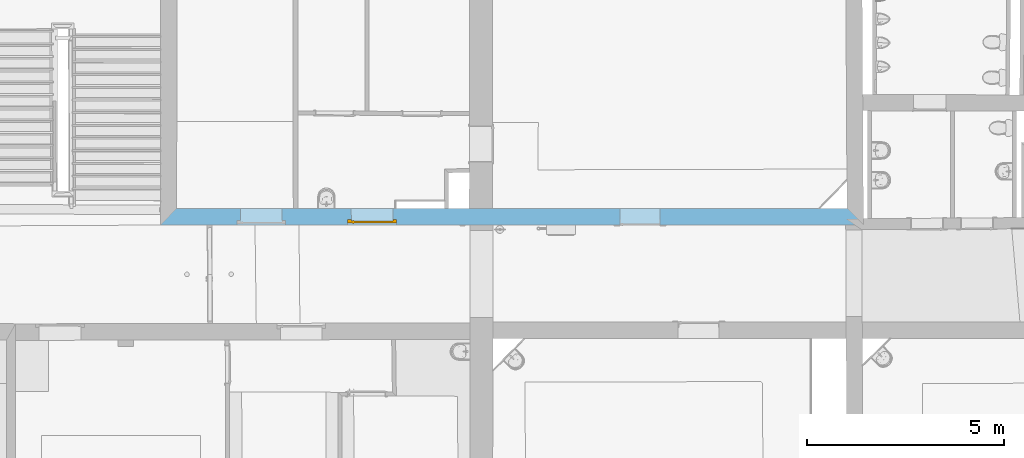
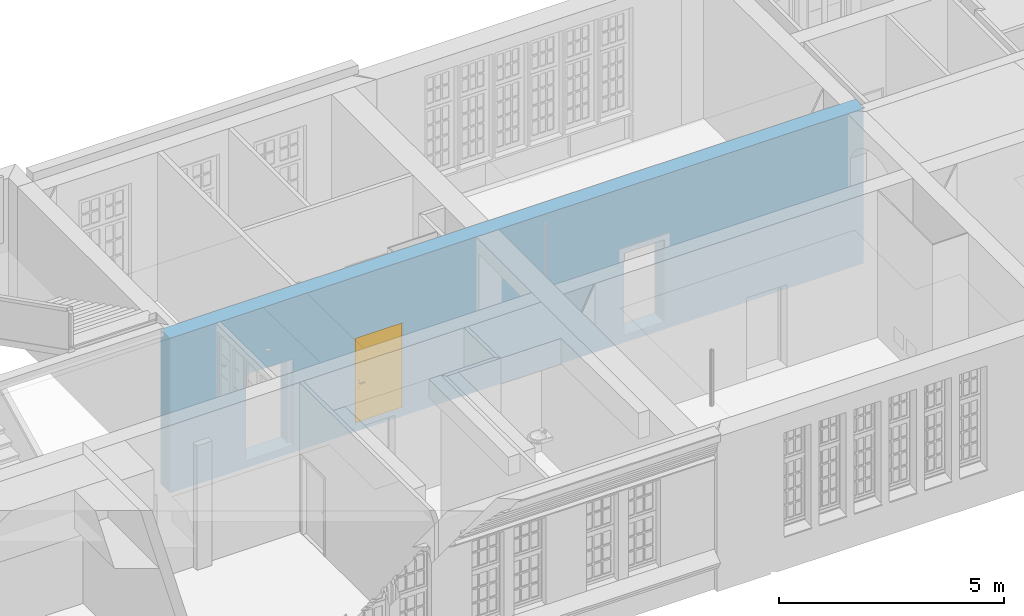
# One storey, part 45 of 90: 1 door, 3 openings, plus 1 element that does not belong to this part.
"""IFC2X3 building model written with IfcOpenShell, lengths in metres."""

import ifcopenshell
import ifcopenshell.guid

model = None  # the IFC model being written
_history = None  # IfcOwnerHistory: only IFC2X3 demands one
_inside = {}  # id of a spatial element -> (the spatial element, [elements in it])
_under = {}  # id of a project, library or spatial element -> (it, [spatial elements below it])
_declared = {}  # id of a project -> (the project, [libraries it declares])
_typed = {}  # id of a type object -> (the type object, [elements of that type])
_made_of = {}  # id of a material, layer set ... -> (it, [elements and type objects made of it])


def new_model(schema):
    """Start an empty IFC model of exactly this schema.

    Asked for "IFC4X3", IfcOpenShell would pick the latest addendum, in which some entities
    have other attributes; the version numbers below select the first issue.
    IFC2X3 requires an IfcOwnerHistory on every rooted entity: one is made here for all.
    """
    global model, _history
    if schema == "IFC4X3":
        model = ifcopenshell.file(schema_version=(4, 3, 0, 0))
    else:
        model = ifcopenshell.file(schema=schema)
    _inside.clear()
    _under.clear()
    _declared.clear()
    _typed.clear()
    _made_of.clear()
    _history = None
    if model.schema == "IFC2X3":
        org = make("IfcOrganization", Name="unknown")
        user = make(
            "IfcPersonAndOrganization",
            ThePerson=make("IfcPerson", FamilyName="unknown"),
            TheOrganization=org,
        )
        app = make(
            "IfcApplication",
            ApplicationDeveloper=org,
            Version="unknown",
            ApplicationFullName="unknown",
            ApplicationIdentifier="unknown",
        )
        _history = make(
            "IfcOwnerHistory",
            OwningUser=user,
            OwningApplication=app,
            ChangeAction="ADDED",
            CreationDate=0,
        )
    return model


def make(cls, **values):
    """One entity of the class cls with the attributes given. An attribute that is None is left unset."""
    return model.create_entity(
        cls, **{name: value for name, value in values.items() if value is not None}
    )


def entity(cls, *values):
    """Any entity or typed value of the class cls, its attributes in the order of the schema. None: left unset."""
    e = model.create_entity(cls)
    for i, value in enumerate(values):
        if value is not None:
            e[i] = value
    return e


def rooted(cls, **values):
    """An entity with a GlobalId (a new one), such as an element, a storey or a relation."""
    return make(cls, GlobalId=ifcopenshell.guid.new(), OwnerHistory=_history, **values)


def si_unit(unit_type, name, prefix=None):
    """IfcSIUnit, for example si_unit("LENGTHUNIT", "METRE", prefix="MILLI")."""
    return make("IfcSIUnit", UnitType=unit_type, Prefix=prefix, Name=name)


def converted_unit(unit_type, name, factor, base, dimensions=None, offset=None):
    """IfcConversionBasedUnit, such as the inch: factor (a typed value) times the base unit."""
    return make(
        "IfcConversionBasedUnit"
        if offset is None
        else "IfcConversionBasedUnitWithOffset",
        ConversionOffset=offset,
        Dimensions=None
        if dimensions is None
        else entity("IfcDimensionalExponents", *dimensions),
        UnitType=unit_type,
        Name=name,
        ConversionFactor=make(
            "IfcMeasureWithUnit", ValueComponent=factor, UnitComponent=base
        ),
    )


def derived_unit(unit_type, elements):
    """IfcDerivedUnit: a product of units, each with its exponent."""
    return make(
        "IfcDerivedUnit",
        Elements=[
            make("IfcDerivedUnitElement", Unit=unit, Exponent=power)
            for unit, power in elements
        ],
        UnitType=unit_type,
    )


def money_unit(currency):
    """IfcMonetaryUnit."""
    return make("IfcMonetaryUnit", Currency=currency)


def assignment(units):
    """IfcUnitAssignment: the units of a project."""
    return None if units is None else make("IfcUnitAssignment", Units=units)


def point(xyz):
    """IfcCartesianPoint."""
    return None if xyz is None else make("IfcCartesianPoint", Coordinates=xyz)


def direction(xyz):
    """IfcDirection."""
    return None if xyz is None else make("IfcDirection", DirectionRatios=xyz)


def frame(location, z_axis=None, x_axis=None):
    """IfcAxis2Placement3D, a coordinate frame: its origin and axes. An axis left out is left unset."""
    return make(
        "IfcAxis2Placement3D",
        Location=point(location),
        Axis=direction(z_axis),
        RefDirection=direction(x_axis),
    )


def frame_2d(location, x_axis=None):
    """IfcAxis2Placement2D, a coordinate frame in the plane: its origin and x axis."""
    return make(
        "IfcAxis2Placement2D", Location=point(location), RefDirection=direction(x_axis)
    )


def origin_with_axes():
    """The frame at (0, 0, 0) with the z axis (0, 0, 1) and the x axis (1, 0, 0) written out."""
    return frame((0.0, 0.0, 0.0), z_axis=(0.0, 0.0, 1.0), x_axis=(1.0, 0.0, 0.0))


def origin_2d_with_axis():
    """The frame at (0, 0) in the plane with the x axis (1, 0) written out."""
    return frame_2d((0.0, 0.0), x_axis=(1.0, 0.0))


def place(relative_to, where):
    """IfcLocalPlacement: puts the frame where relative to a parent placement (None: the world)."""
    return make(
        "IfcLocalPlacement", PlacementRelTo=relative_to, RelativePlacement=where
    )


def context(
    kind, dimensions, precision=None, world=None, true_north=None, identifier=None
):
    """IfcGeometricRepresentationContext, for example the 3D "Model" context."""
    return make(
        "IfcGeometricRepresentationContext",
        ContextIdentifier=identifier,
        ContextType=kind,
        CoordinateSpaceDimension=dimensions,
        Precision=precision,
        WorldCoordinateSystem=world,
        TrueNorth=true_north,
    )


def subcontext(parent, identifier, kind, view, scale=None):
    """IfcGeometricRepresentationSubContext, for example "Body" below "Model"."""
    return make(
        "IfcGeometricRepresentationSubContext",
        ContextIdentifier=identifier,
        ContextType=kind,
        ParentContext=parent,
        TargetScale=scale,
        TargetView=view,
    )


def project(units=None, contexts=None):
    """IfcProject with its units and contexts."""
    return rooted(
        "IfcProject",
        Name="project",
        RepresentationContexts=contexts,
        UnitsInContext=assignment(units),
    )


def spatial(cls, under=None, at=None, **own):
    """A site, building, storey or space (cls), placed at a placement, below another one or the project."""
    s = rooted(cls, ObjectPlacement=at, **own)
    if under is not None:
        _under.setdefault(under.id(), (under, []))[1].append(s)
    return s


def polyline(points):
    """IfcPolyline through the points."""
    return make("IfcPolyline", Points=[point(p) for p in points])


def profile(cls, at=None, kind="AREA", **sizes):
    """A parametric profile (cls). Its sizes go by their IFC names, for example OverallWidth=200.0."""
    return make(cls, ProfileType=kind, Position=at, **sizes)


def rectangle(**sizes):
    """IfcRectangleProfileDef."""
    return profile("IfcRectangleProfileDef", **sizes)


def outline(outer, holes=None, kind="AREA"):
    """IfcArbitraryClosedProfileDef: a profile drawn as a closed curve; with holes, ...WithVoids."""
    if holes is None:
        return make("IfcArbitraryClosedProfileDef", ProfileType=kind, OuterCurve=outer)
    return make(
        "IfcArbitraryProfileDefWithVoids",
        ProfileType=kind,
        OuterCurve=outer,
        InnerCurves=holes,
    )


def extrude(swept, where, along, depth):
    """IfcExtrudedAreaSolid: the profile swept, set in the frame where, extruded along a direction by depth."""
    return make(
        "IfcExtrudedAreaSolid",
        SweptArea=swept,
        Position=where,
        ExtrudedDirection=direction(along),
        Depth=depth,
    )


def boolean(op, a, b):
    """IfcBooleanResult of two solids."""
    return make("IfcBooleanResult", Operator=op, FirstOperand=a, SecondOperand=b)


def faces_of(points, faces, orient=None, outer=None):
    """IfcFace entities. A face is a list of loops; a loop is a list of indices into points, from 0.

    orient and outer hold one flag for each loop. By default every Orientation is true, the
    first loop of a face is its IfcFaceOuterBound and the others are IfcFaceBound.
    """
    made = []
    for i, loops in enumerate(faces):
        bounds = []
        for j, loop in enumerate(loops):
            is_outer = j == 0 if outer is None else outer[i][j]
            bounds.append(
                make(
                    "IfcFaceOuterBound" if is_outer else "IfcFaceBound",
                    Bound=make("IfcPolyLoop", Polygon=[points[k] for k in loop]),
                    Orientation=True if orient is None else orient[i][j],
                )
            )
        made.append(make("IfcFace", Bounds=bounds))
    return made


def faceted_brep(points, faces, orient=None, outer=None, voids=None):
    """IfcFacetedBrep: a solid bounded by flat faces; with voids (closed shells), ...WithVoids."""
    shared = [point(p) for p in points]
    hull = make("IfcClosedShell", CfsFaces=faces_of(shared, faces, orient, outer))
    if voids is None:
        return make("IfcFacetedBrep", Outer=hull)
    return make(
        "IfcFacetedBrepWithVoids",
        Outer=hull,
        Voids=[
            make(cls, CfsFaces=faces_of(shared, fs, o, b)) for cls, fs, o, b in voids
        ],
    )


def shape(context_of_items, identifier, shape_type, items):
    """IfcShapeRepresentation: the items that make up one representation, for example the "Body"."""
    return make(
        "IfcShapeRepresentation",
        ContextOfItems=context_of_items,
        RepresentationIdentifier=identifier,
        RepresentationType=shape_type,
        Items=items,
    )


def material(Name=None, Category=None):
    """IfcMaterial."""
    return make("IfcMaterial", Name=Name, Category=Category)


def made_of(thing, what):
    """Note that an element or type object is made of a material, layer set ...; save() writes the relation."""
    if what is not None:
        _made_of.setdefault(what.id(), (what, []))[1].append(thing)
    return thing


def type_object(cls, material=None, **own):
    """A type object (cls), such as IfcWallType, which elements share."""
    return made_of(rooted(cls, **own), material)


def element(
    cls,
    number,
    at=None,
    inside=None,
    cuts=None,
    type_object=None,
    material=None,
    context=None,
    identifier="Body",
    shape_type=None,
    held_by="IfcProductDefinitionShape",
    body=None,
    shapes=None,
    **own,
):
    """One element of the class cls, such as IfcWall. Its Tag is "e" and its number.

    at: its placement. inside: the storey or other place that contains it. cuts: it is an
    opening in that element (IfcRelVoidsElement). A single representation is given by context,
    identifier, shape_type and body (its items); several are given by shapes. held_by: the class
    of the entity that holds the representations. save() writes the other relations.
    """
    e = rooted(cls, Tag="e%d" % number, ObjectPlacement=at, **own)
    if body is not None:
        shapes = [shape(context, identifier, shape_type, body)]
    if shapes is not None:
        e.Representation = make(held_by, Representations=shapes)
    if inside is not None:
        _inside.setdefault(inside.id(), (inside, []))[1].append(e)
    if cuts is not None:
        rooted(
            "IfcRelVoidsElement", RelatingBuildingElement=cuts, RelatedOpeningElement=e
        )
    if type_object is not None:
        _typed.setdefault(type_object.id(), (type_object, []))[1].append(e)
    return made_of(e, material)


def fill(opening, filler):
    """IfcRelFillsElement: the door or window that sits in an opening."""
    return rooted(
        "IfcRelFillsElement",
        RelatingOpeningElement=opening,
        RelatedBuildingElement=filler,
    )


def aggregate(whole, parts):
    """IfcRelAggregates: a whole, such as a stair, and the parts it consists of."""
    return rooted("IfcRelAggregates", RelatingObject=whole, RelatedObjects=parts)


def save(model, path):
    """Write the relations noted so far, then the file.

    IfcRelAggregates (storeys below a building ...), IfcRelContainedInSpatialStructure (elements
    in a storey), IfcRelDefinesByType, IfcRelAssociatesMaterial and IfcRelDeclares: one each for
    every whole, place, type object, material and project.
    """
    for whole, parts in _under.values():
        aggregate(whole, parts)
    for where, things in _inside.values():
        rooted(
            "IfcRelContainedInSpatialStructure",
            RelatedElements=things,
            RelatingStructure=where,
        )
    for kind, things in _typed.values():
        rooted("IfcRelDefinesByType", RelatedObjects=things, RelatingType=kind)
    for what, things in _made_of.values():
        rooted("IfcRelAssociatesMaterial", RelatedObjects=things, RelatingMaterial=what)
    for by, libraries in _declared.values():
        rooted("IfcRelDeclares", RelatingContext=by, RelatedDefinitions=libraries)
    model.write(path)


model = new_model("IFC2X3")

# Units and contexts
model_context = context("Model", 3, precision=1e-05, world=origin_with_axes(), true_north=direction((0.0, 1.0)))
body_context = subcontext(model_context, "Body", "Model", "MODEL_VIEW")
ifc_project = project(units=[si_unit("LENGTHUNIT", "METRE"), si_unit("AREAUNIT", "SQUARE_METRE"), si_unit("VOLUMEUNIT", "CUBIC_METRE"), converted_unit("PLANEANGLEUNIT", "DEGREE", entity("IfcPlaneAngleMeasure", 0.0174532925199), si_unit("PLANEANGLEUNIT", "RADIAN"), dimensions=[0, 0, 0, 0, 0, 0, 0]), money_unit("EUR"), converted_unit("TIMEUNIT", "Year", entity("IfcTimeMeasure", 31556926.0), si_unit("TIMEUNIT", "SECOND"), dimensions=[0, 0, 1, 0, 0, 0, 0]), si_unit("MASSUNIT", "GRAM", prefix="KILO"), si_unit("THERMODYNAMICTEMPERATUREUNIT", "DEGREE_CELSIUS"), si_unit("LUMINOUSINTENSITYUNIT", "LUMEN"), si_unit("ENERGYUNIT", "JOULE", prefix="MEGA"), derived_unit("THERMALCONDUCTANCEUNIT", [(si_unit("POWERUNIT", "WATT"), 1), (si_unit("LENGTHUNIT", "METRE"), -1), (si_unit("THERMODYNAMICTEMPERATUREUNIT", "KELVIN"), -1)]), derived_unit("SPECIFICHEATCAPACITYUNIT", [(si_unit("ENERGYUNIT", "JOULE"), 1), (si_unit("MASSUNIT", "GRAM", prefix="KILO"), -1), (si_unit("THERMODYNAMICTEMPERATUREUNIT", "KELVIN"), -1)]), derived_unit("MASSDENSITYUNIT", [(si_unit("MASSUNIT", "GRAM", prefix="KILO"), 1), (si_unit("VOLUMEUNIT", "CUBIC_METRE"), -1)])], contexts=[model_context])

# Site, building, storey
site_placement = place(None, origin_with_axes())
site = spatial("IfcSite", under=ifc_project, at=site_placement, Name="Gelände", CompositionType="ELEMENT")
building_placement = place(site_placement, origin_with_axes())
building = spatial("IfcBuilding", under=site, at=building_placement, Name="Gebäude", CompositionType="ELEMENT")
storey_placement = place(building_placement, frame((0.0, 0.0, 3.7), z_axis=(0.0, 0.0, 1.0), x_axis=(1.0, 0.0, 0.0)))
storey = spatial("IfcBuildingStorey", under=building, at=storey_placement, Name="1.OBERGESCHOSS", CompositionType="ELEMENT", Elevation=3.7)

# Wall, openings, door
ifc_material = material(Name="05_ALLGEMEIN - TRAGENDE BAUTEILE")
wall_type = type_object("IfcWallType", Name="05_ALLGEMEIN - TRAGENDE BAUTEILE 415", PredefinedType="ELEMENTEDWALL")
wall_placement = place(storey_placement, frame((-4.46533827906, 19.2762494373, -0.1), z_axis=(0.0, 0.0, 1.0), x_axis=(0.999999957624, 0.000291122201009, 0.0)))
wall = element("IfcWall", 1, at=wall_placement, inside=storey, type_object=wall_type, material=ifc_material, Name="Wand-038", ObjectType="ELEMENTEDWALL", context=body_context, shape_type="CSG", body=[
    boolean("DIFFERENCE", boolean("DIFFERENCE", extrude(outline(polyline([(-0.410000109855, 0.0), (17.4431832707, 0.0), (17.4431832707, 0.414615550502), (-0.410000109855, 0.414615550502), (-0.410000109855, 0.0)])), origin_with_axes(), (0.0, 0.0, 1.0), 4.2), faceted_brep([(-0.409696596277, 0.414615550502, 0.0), (-0.409766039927, 0.319751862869, 0.0), (-0.40959077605, 0.285260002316, 0.0), (-0.409791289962, 0.285258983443, 0.0), (-0.410000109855, 0.0, 0.0), (-0.410000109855, 0.414615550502, 0.0), (-0.409696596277, 0.414615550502, 4.2), (-0.410000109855, 0.0, 4.2), (-0.409791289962, 0.285258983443, 0.0945767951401), (-0.409766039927, 0.319751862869, 0.0945767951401), (-0.40959077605, 0.285260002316, 0.0945767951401), (-0.410000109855, 0.414615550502, 4.2)], [[[0, 1, 2, 3, 4, 5]], [[0, 6, 7, 4, 3, 8, 9, 1]], [[2, 1, 9, 10]], [[3, 2, 10, 8]], [[4, 7, 11, 5]], [[6, 0, 5, 11]], [[7, 6, 11]], [[9, 8, 10]]])), faceted_brep([(17.4022997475, 0.155036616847, 4.2), (17.4028442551, 0.0, 4.2), (17.4431832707, 0.0, 4.2), (17.4431832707, 0.414615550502, 4.2), (17.4409878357, 0.414615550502, 4.2), (17.4423609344, 0.155301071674, 4.2), (17.4028442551, 0.0, 0.0), (17.4022997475, 0.155036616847, 0.0), (17.4431832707, 0.0, 0.0), (17.4431832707, 0.414615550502, 0.0), (17.4409878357, 0.414615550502, 0.0), (17.4423609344, 0.155301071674, 0.0)], [[[0, 1, 2, 3, 4, 5]], [[6, 1, 0, 7]], [[1, 6, 8, 2]], [[2, 8, 9, 3]], [[10, 4, 3, 9]], [[5, 4, 10, 11]], [[0, 5, 11, 7]], [[11, 10, 9, 8, 6, 7]]])),
])
opening_1_placement = place(wall_placement, frame((11.7658907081, 0.0, 0.201376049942), z_axis=(0.0, 0.0, 1.0), x_axis=(1.0, 0.0, 0.0)))
element("IfcOpeningElement", 2, at=opening_1_placement, cuts=wall, Name="Tür-022", context=body_context, shape_type="SweptSolid", body=[
    extrude(rectangle(XDim=1.02378616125, YDim=2.250558, at=origin_2d_with_axis()), frame((0.0, 0.414615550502, 1.125279), z_axis=(0.0, 1.0, 0.0), x_axis=(1.0, 0.0, 0.0)), (0.0, 0.0, -1.0), 1.24384665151),
])
opening_2_placement = place(wall_placement, frame((4.96277781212, 0.0, 0.201), z_axis=(0.0, 0.0, 1.0), x_axis=(1.0, 0.0, 0.0)))
opening_2 = element("IfcOpeningElement", 3, at=opening_2_placement, cuts=wall, Name="Tür-022", context=body_context, shape_type="SweptSolid", body=[
    extrude(rectangle(XDim=1.05907517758, YDim=2.24387033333, at=origin_2d_with_axis()), frame((0.0, 0.14, 1.12193516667), z_axis=(0.0, 1.0, 0.0), x_axis=(1.0, 0.0, 0.0)), (0.0, 0.0, 1.0), 0.689231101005),
    extrude(rectangle(XDim=1.23907517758, YDim=2.33387033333, at=origin_2d_with_axis()), frame((0.0, 0.05, 1.16693516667), z_axis=(0.0, -1.0, 0.0), x_axis=(1.0, 0.0, 0.0)), (0.0, 0.0, -1.0), 0.09),
    extrude(rectangle(XDim=1.23907517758, YDim=2.33387033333, at=origin_2d_with_axis()), frame((0.0, 0.05, 1.16693516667), z_axis=(0.0, -1.0, 0.0), x_axis=(1.0, 0.0, 0.0)), (0.0, 0.0, 1.0), 0.464615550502),
])
opening_3_placement = place(wall_placement, frame((2.14649671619, 0.0, 0.201), z_axis=(0.0, 0.0, 1.0), x_axis=(1.0, 0.0, 0.0)))
element("IfcOpeningElement", 4, at=opening_3_placement, cuts=wall, Name="Tür-022", context=body_context, shape_type="SweptSolid", body=[
    extrude(rectangle(XDim=1.05907517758, YDim=2.24387033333, at=origin_2d_with_axis()), frame((0.0, 0.12, 1.12193516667), z_axis=(0.0, 1.0, 0.0), x_axis=(1.0, 0.0, 0.0)), (0.0, 0.0, 1.0), 0.709231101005),
    extrude(rectangle(XDim=1.23907517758, YDim=2.33387033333, at=origin_2d_with_axis()), frame((0.0, 0.03, 1.16693516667), z_axis=(0.0, -1.0, 0.0), x_axis=(1.0, 0.0, 0.0)), (0.0, 0.0, -1.0), 0.09),
    extrude(rectangle(XDim=1.23907517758, YDim=2.33387033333, at=origin_2d_with_axis()), frame((0.0, 0.03, 1.16693516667), z_axis=(0.0, -1.0, 0.0), x_axis=(1.0, 0.0, 0.0)), (0.0, 0.0, 1.0), 0.444615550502),
])
door_style = type_object("IfcDoorStyle", Name="Blockrahmentür 1-Fl 25", ConstructionType="NOTDEFINED", OperationType="SINGLE_SWING_LEFT", ParameterTakesPrecedence=False, Sizeable=False)
door_placement = place(opening_2_placement, frame((0.529537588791, 0.0, 0.0), z_axis=(0.0, 0.0, 1.0), x_axis=(-1.0, 0.0, 0.0)))
door = element("IfcDoor", 5, at=door_placement, inside=storey, type_object=door_style, Name="Tür-022", ObjectType="NOTDEFINED", OverallHeight=2.33387, OverallWidth=1.23908, context=body_context, shape_type="Brep", body=[
    faceted_brep([(-0.09, -0.14, 0.0), (-0.09, -0.14, 2.33387033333), (-0.09, -0.1, 2.33387033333), (-0.09, -0.1, 0.0), (0.0, -0.14, 0.0), (0.0, -0.14, 2.24387033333), (0.417437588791, -0.14, 2.24387033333), (0.529437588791, -0.14, 2.24387033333), (1.05907517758, -0.14, 2.24387033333), (1.05907517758, -0.14, 0.0), (1.14907517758, -0.14, 0.0), (1.14907517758, -0.14, 2.33387033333), (1.14907517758, -0.1, 2.33387033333), (1.14907517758, -0.1, 0.0), (1.05907517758, -0.1, 0.0), (1.05907517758, -0.1, 2.24387033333), (0.529437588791, -0.1, 2.24387033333), (0.417437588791, -0.1, 2.24387033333), (0.0, -0.1, 2.24387033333), (0.0, -0.1, 0.0)], [[[0, 1, 2, 3]], [[0, 4, 5, 6, 7, 8, 9, 10, 11, 1]], [[1, 11, 12, 2]], [[3, 2, 12, 13, 14, 15, 16, 17, 18, 19]], [[4, 0, 3, 19]], [[5, 4, 19, 18]], [[6, 5, 18, 17]], [[7, 6, 17, 16]], [[8, 7, 16, 15]], [[9, 8, 15, 14]], [[10, 9, 14, 13]], [[11, 10, 13, 12]]]),
    faceted_brep([(-0.09, -0.1, 0.0), (-0.09, -0.1, 2.33387033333), (-0.09, -0.05, 2.33387033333), (-0.09, -0.05, 0.0), (-0.012, -0.1, 0.0), (-0.012, -0.1, 2.25587033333), (0.429437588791, -0.1, 2.25587033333), (0.517437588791, -0.1, 2.25587033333), (1.07107517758, -0.1, 2.25587033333), (1.07107517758, -0.1, 0.0), (1.14907517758, -0.1, 0.0), (1.14907517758, -0.1, 2.33387033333), (1.14907517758, -0.05, 2.33387033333), (1.14907517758, -0.05, 0.0), (1.07107517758, -0.05, 0.0), (1.07107517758, -0.05, 2.25587033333), (0.517437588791, -0.05, 2.25587033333), (0.429437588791, -0.05, 2.25587033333), (-0.012, -0.05, 2.25587033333), (-0.012, -0.05, 0.0)], [[[0, 1, 2, 3]], [[0, 4, 5, 6, 7, 8, 9, 10, 11, 1]], [[1, 11, 12, 2]], [[3, 2, 12, 13, 14, 15, 16, 17, 18, 19]], [[4, 0, 3, 19]], [[5, 4, 19, 18]], [[6, 5, 18, 17]], [[7, 6, 17, 16]], [[8, 7, 16, 15]], [[9, 8, 15, 14]], [[10, 9, 14, 13]], [[11, 10, 13, 12]]]),
    faceted_brep([(-0.012, -0.052, 0.0), (-0.012, -0.052, 2.25587033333), (1.07107517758, -0.052, 2.25587033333), (1.07107517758, -0.052, 0.0), (-0.012, -0.1, 0.0), (-0.012, -0.1, 2.25587033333), (1.07107517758, -0.1, 2.25587033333), (1.07107517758, -0.1, 0.0)], [[[0, 1, 2, 3]], [[0, 4, 5, 1]], [[1, 5, 6, 2]], [[2, 6, 7, 3]], [[3, 7, 4, 0]], [[7, 6, 5, 4]]]),
    faceted_brep([(1.0157774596, -0.14, 1.05647213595), (1.0157774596, -0.12, 1.05647213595), (1.01107517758, -0.12, 1.058), (1.01107517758, -0.14, 1.058), (1.01868362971, -0.14, 1.05247213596), (1.01868362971, -0.12, 1.05247213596), (1.0169530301, -0.118, 1.05809016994), (1.01107517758, -0.118, 1.06), (1.00637289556, -0.12, 1.05647213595), (1.00637289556, -0.14, 1.05647213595), (1.00346672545, -0.14, 1.05247213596), (1.00346672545, -0.14, 1.04752786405), (1.00637289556, -0.14, 1.04352786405), (1.01107517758, -0.14, 1.042), (1.0157774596, -0.14, 1.04352786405), (1.01868362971, -0.14, 1.04752786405), (1.01868362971, -0.12, 1.04752786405), (1.02058574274, -0.118, 1.05309016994), (1.0169530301, -0.11, 1.05809016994), (1.01107517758, -0.11, 1.06), (1.00519732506, -0.118, 1.05809016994), (1.00346672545, -0.12, 1.05247213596), (1.00346672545, -0.12, 1.04752786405), (1.00637289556, -0.12, 1.04352786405), (1.01107517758, -0.12, 1.042), (1.0157774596, -0.12, 1.04352786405), (1.02058574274, -0.118, 1.04690983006), (1.02058574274, -0.11, 1.05309016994), (1.02058574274, -0.11, 1.04690983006), (1.0169530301, -0.11, 1.04190983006), (1.01107517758, -0.11, 1.04), (1.00519732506, -0.11, 1.04190983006), (1.00156461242, -0.11, 1.04690983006), (1.00156461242, -0.11, 1.05309016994), (1.00519732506, -0.11, 1.05809016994), (1.00156461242, -0.118, 1.05309016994), (1.00156461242, -0.118, 1.04690983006), (1.00519732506, -0.118, 1.04190983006), (1.01107517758, -0.118, 1.04), (1.0169530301, -0.118, 1.04190983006)], [[[0, 1, 2, 3]], [[4, 5, 1, 0]], [[1, 6, 7, 2]], [[3, 2, 8, 9]], [[3, 9, 10, 11, 12, 13, 14, 15, 4, 0]], [[15, 16, 5, 4]], [[5, 17, 6, 1]], [[6, 18, 19, 7]], [[2, 7, 20, 8]], [[9, 8, 21, 10]], [[10, 21, 22, 11]], [[11, 22, 23, 12]], [[12, 23, 24, 13]], [[13, 24, 25, 14]], [[14, 25, 16, 15]], [[16, 26, 17, 5]], [[17, 27, 18, 6]], [[19, 18, 27, 28, 29, 30, 31, 32, 33, 34]], [[7, 19, 34, 20]], [[8, 20, 35, 21]], [[21, 35, 36, 22]], [[22, 36, 37, 23]], [[23, 37, 38, 24]], [[24, 38, 39, 25]], [[25, 39, 26, 16]], [[26, 28, 27, 17]], [[39, 29, 28, 26]], [[38, 30, 29, 39]], [[37, 31, 30, 38]], [[36, 32, 31, 37]], [[35, 33, 32, 36]], [[20, 34, 33, 35]]]),
    faceted_brep([(0.998886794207, -0.11, 1.11759695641), (0.994275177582, -0.11, 1.11), (0.988575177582, -0.11, 1.11), (0.988575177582, -0.11, 0.89), (0.994275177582, -0.11, 0.89), (0.998886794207, -0.11, 0.882403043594), (1.00663162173, -0.11, 0.878044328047), (1.01551873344, -0.11, 0.878044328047), (1.02326356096, -0.11, 0.882403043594), (1.02787517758, -0.11, 0.89), (1.03357517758, -0.11, 0.89), (1.03357517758, -0.11, 1.11), (1.02787517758, -0.11, 1.11), (1.02326356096, -0.11, 1.11759695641), (1.01551873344, -0.11, 1.12195567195), (1.00663162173, -0.11, 1.12195567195), (1.01107517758, -0.11, 0.967425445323), (1.0164503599, -0.11, 0.965143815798), (1.01854300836, -0.11, 0.959692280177), (1.01607517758, -0.11, 0.9544), (1.01607517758, -0.11, 0.9375), (1.01461071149, -0.11, 0.933964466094), (1.01107517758, -0.11, 0.9325), (1.00753964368, -0.11, 0.933964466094), (1.00607517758, -0.11, 0.9375), (1.00607517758, -0.11, 0.9544), (1.00360734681, -0.11, 0.959692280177), (1.00569999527, -0.11, 0.965143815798), (0.998886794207, -0.1, 1.11759695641), (0.994275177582, -0.1, 1.11), (0.988575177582, -0.1, 1.11), (0.988575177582, -0.1, 0.89), (0.994275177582, -0.1, 0.89), (0.998886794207, -0.1, 0.882403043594), (1.00663162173, -0.1, 0.878044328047), (1.01551873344, -0.1, 0.878044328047), (1.02326356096, -0.1, 0.882403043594), (1.02787517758, -0.1, 0.89), (1.03357517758, -0.1, 0.89), (1.03357517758, -0.1, 1.11), (1.02787517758, -0.1, 1.11), (1.02326356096, -0.1, 1.11759695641), (1.01551873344, -0.1, 1.12195567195), (1.00663162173, -0.1, 1.12195567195), (1.01107517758, -0.1, 0.967425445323), (1.0164503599, -0.1, 0.965143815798), (1.01854300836, -0.1, 0.959692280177), (1.01607517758, -0.1, 0.9544), (1.01607517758, -0.1, 0.9375), (1.01461071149, -0.1, 0.933964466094), (1.01107517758, -0.1, 0.9325), (1.00753964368, -0.1, 0.933964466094), (1.00607517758, -0.1, 0.9375), (1.00607517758, -0.1, 0.9544), (1.00360734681, -0.1, 0.959692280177), (1.00569999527, -0.1, 0.965143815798)], [[[0, 1, 2, 3, 4, 5, 6, 7, 8, 9, 10, 11, 12, 13, 14, 15], [16, 17, 18, 19, 20, 21, 22, 23, 24, 25, 26, 27]], [[0, 28, 29, 1]], [[1, 29, 30, 2]], [[2, 30, 31, 3]], [[3, 31, 32, 4]], [[4, 32, 33, 5]], [[5, 33, 34, 6]], [[6, 34, 35, 7]], [[7, 35, 36, 8]], [[8, 36, 37, 9]], [[9, 37, 38, 10]], [[10, 38, 39, 11]], [[11, 39, 40, 12]], [[12, 40, 41, 13]], [[13, 41, 42, 14]], [[14, 42, 43, 15]], [[15, 43, 28, 0]], [[16, 44, 45, 17]], [[17, 45, 46, 18]], [[18, 46, 47, 19]], [[47, 48, 20, 19]], [[21, 20, 48, 49]], [[22, 21, 49, 50]], [[23, 22, 50, 51]], [[24, 23, 51, 52]], [[25, 24, 52, 53]], [[25, 53, 54, 26]], [[26, 54, 55, 27]], [[27, 55, 44, 16]], [[32, 31, 30, 29, 28, 43, 42, 41, 40, 39, 38, 37, 36, 35, 34, 33], [46, 45, 44, 55, 54, 53, 52, 51, 50, 49, 48, 47]]]),
    faceted_brep([(0.896822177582, -0.14, 1.057158), (0.896820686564, -0.14, 1.05719388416), (0.896820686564, -0.155, 1.05719388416), (0.896822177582, -0.155, 1.057158), (0.923849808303, -0.14, 1.06432652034), (0.951677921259, -0.14, 1.06706086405), (0.979583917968, -0.14, 1.06529002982), (1.00684317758, -0.14, 1.05906), (1.0132457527, -0.14, 1.05976125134), (1.01874781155, -0.14, 1.05641280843), (1.02106669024, -0.14, 1.05040385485), (1.01924034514, -0.14, 1.04422735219), (1.01402648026, -0.14, 1.04044577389), (1.00758819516, -0.14, 1.04062800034), (1.00259657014, -0.14, 1.04469843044), (1.00261717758, -0.14, 1.044666), (0.977328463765, -0.14, 1.05019878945), (0.951485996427, -0.14, 1.05171460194), (0.925723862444, -0.14, 1.04917624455), (0.900674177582, -0.14, 1.042646), (0.895130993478, -0.14, 1.04356849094), (0.891769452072, -0.14, 1.04807159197), (0.892461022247, -0.14, 1.05364829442), (0.892461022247, -0.155, 1.05364829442), (0.891769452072, -0.155, 1.04807159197), (0.895130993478, -0.155, 1.04356849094), (0.900674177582, -0.155, 1.042646), (0.925723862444, -0.155, 1.04917624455), (0.951485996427, -0.155, 1.05171460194), (0.977328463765, -0.155, 1.05019878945), (1.00261717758, -0.155, 1.044666), (1.00259657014, -0.155, 1.04469843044), (1.00758819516, -0.155, 1.04062800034), (1.01402648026, -0.155, 1.04044577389), (1.01924034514, -0.155, 1.04422735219), (1.02106669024, -0.155, 1.05040385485), (1.01874781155, -0.155, 1.05641280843), (1.0132457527, -0.155, 1.05976125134), (1.00684317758, -0.155, 1.05906), (0.979583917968, -0.155, 1.06529002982), (0.951677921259, -0.155, 1.06706086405), (0.923849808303, -0.155, 1.06432652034)], [[[0, 1, 2, 3]], [[0, 4, 5, 6, 7, 8, 9, 10, 11, 12, 13, 14, 15, 16, 17, 18, 19, 20, 21, 22, 1]], [[1, 22, 23, 2]], [[3, 2, 23, 24, 25, 26, 27, 28, 29, 30, 31, 32, 33, 34, 35, 36, 37, 38, 39, 40, 41]], [[4, 0, 3, 41]], [[5, 4, 41, 40]], [[6, 5, 40, 39]], [[7, 6, 39, 38]], [[8, 7, 38, 37]], [[9, 8, 37, 36]], [[10, 9, 36, 35]], [[11, 10, 35, 34]], [[12, 11, 34, 33]], [[13, 12, 33, 32]], [[14, 13, 32, 31]], [[15, 14, 31, 30]], [[16, 15, 30, 29]], [[17, 16, 29, 28]], [[18, 17, 28, 27]], [[19, 18, 27, 26]], [[20, 19, 26, 25]], [[21, 20, 25, 24]], [[22, 21, 24, 23]]]),
    faceted_brep([(1.0157774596, -0.012, 1.05647213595), (1.01107517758, -0.012, 1.058), (1.01107517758, -0.032, 1.058), (1.0157774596, -0.032, 1.05647213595), (1.01868362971, -0.012, 1.05247213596), (1.01868362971, -0.012, 1.04752786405), (1.0157774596, -0.012, 1.04352786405), (1.01107517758, -0.012, 1.042), (1.00637289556, -0.012, 1.04352786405), (1.00346672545, -0.012, 1.04752786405), (1.00346672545, -0.012, 1.05247213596), (1.00637289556, -0.012, 1.05647213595), (1.00637289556, -0.032, 1.05647213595), (1.01107517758, -0.034, 1.06), (1.0169530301, -0.034, 1.05809016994), (1.01868362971, -0.032, 1.05247213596), (1.01868362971, -0.032, 1.04752786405), (1.0157774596, -0.032, 1.04352786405), (1.01107517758, -0.032, 1.042), (1.00637289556, -0.032, 1.04352786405), (1.00346672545, -0.032, 1.04752786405), (1.00346672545, -0.032, 1.05247213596), (1.00519732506, -0.034, 1.05809016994), (1.01107517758, -0.042, 1.06), (1.0169530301, -0.042, 1.05809016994), (1.02058574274, -0.034, 1.05309016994), (1.02058574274, -0.034, 1.04690983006), (1.0169530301, -0.034, 1.04190983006), (1.01107517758, -0.034, 1.04), (1.00519732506, -0.034, 1.04190983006), (1.00156461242, -0.034, 1.04690983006), (1.00156461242, -0.034, 1.05309016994), (1.00519732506, -0.042, 1.05809016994), (1.00156461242, -0.042, 1.05309016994), (1.00156461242, -0.042, 1.04690983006), (1.00519732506, -0.042, 1.04190983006), (1.01107517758, -0.042, 1.04), (1.0169530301, -0.042, 1.04190983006), (1.02058574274, -0.042, 1.04690983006), (1.02058574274, -0.042, 1.05309016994)], [[[0, 1, 2, 3]], [[1, 0, 4, 5, 6, 7, 8, 9, 10, 11]], [[1, 11, 12, 2]], [[3, 2, 13, 14]], [[4, 0, 3, 15]], [[5, 4, 15, 16]], [[6, 5, 16, 17]], [[7, 6, 17, 18]], [[8, 7, 18, 19]], [[9, 8, 19, 20]], [[10, 9, 20, 21]], [[11, 10, 21, 12]], [[2, 12, 22, 13]], [[14, 13, 23, 24]], [[15, 3, 14, 25]], [[16, 15, 25, 26]], [[17, 16, 26, 27]], [[18, 17, 27, 28]], [[19, 18, 28, 29]], [[20, 19, 29, 30]], [[21, 20, 30, 31]], [[12, 21, 31, 22]], [[13, 22, 32, 23]], [[23, 32, 33, 34, 35, 36, 37, 38, 39, 24]], [[25, 14, 24, 39]], [[26, 25, 39, 38]], [[27, 26, 38, 37]], [[28, 27, 37, 36]], [[29, 28, 36, 35]], [[30, 29, 35, 34]], [[31, 30, 34, 33]], [[22, 31, 33, 32]]]),
    faceted_brep([(0.998886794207, -0.052, 1.11759695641), (0.994275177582, -0.052, 1.11), (0.988575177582, -0.052, 1.11), (0.988575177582, -0.052, 0.89), (0.994275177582, -0.052, 0.89), (0.998886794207, -0.052, 0.882403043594), (1.00663162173, -0.052, 0.878044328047), (1.01551873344, -0.052, 0.878044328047), (1.02326356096, -0.052, 0.882403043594), (1.02787517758, -0.052, 0.89), (1.03357517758, -0.052, 0.89), (1.03357517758, -0.052, 1.11), (1.02787517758, -0.052, 1.11), (1.02326356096, -0.052, 1.11759695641), (1.01551873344, -0.052, 1.12195567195), (1.00663162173, -0.052, 1.12195567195), (1.01107517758, -0.052, 0.967425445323), (1.0164503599, -0.052, 0.965143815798), (1.01854300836, -0.052, 0.959692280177), (1.01607517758, -0.052, 0.9544), (1.01607517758, -0.052, 0.9375), (1.01461071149, -0.052, 0.933964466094), (1.01107517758, -0.052, 0.9325), (1.00753964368, -0.052, 0.933964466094), (1.00607517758, -0.052, 0.9375), (1.00607517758, -0.052, 0.9544), (1.00360734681, -0.052, 0.959692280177), (1.00569999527, -0.052, 0.965143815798), (0.998886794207, -0.042, 1.11759695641), (0.994275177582, -0.042, 1.11), (0.988575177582, -0.042, 1.11), (0.988575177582, -0.042, 0.89), (0.994275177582, -0.042, 0.89), (0.998886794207, -0.042, 0.882403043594), (1.00663162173, -0.042, 0.878044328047), (1.01551873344, -0.042, 0.878044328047), (1.02326356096, -0.042, 0.882403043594), (1.02787517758, -0.042, 0.89), (1.03357517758, -0.042, 0.89), (1.03357517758, -0.042, 1.11), (1.02787517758, -0.042, 1.11), (1.02326356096, -0.042, 1.11759695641), (1.01551873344, -0.042, 1.12195567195), (1.00663162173, -0.042, 1.12195567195), (1.01107517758, -0.042, 0.967425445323), (1.0164503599, -0.042, 0.965143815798), (1.01854300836, -0.042, 0.959692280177), (1.01607517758, -0.042, 0.9544), (1.01607517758, -0.042, 0.9375), (1.01461071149, -0.042, 0.933964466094), (1.01107517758, -0.042, 0.9325), (1.00753964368, -0.042, 0.933964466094), (1.00607517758, -0.042, 0.9375), (1.00607517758, -0.042, 0.9544), (1.00360734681, -0.042, 0.959692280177), (1.00569999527, -0.042, 0.965143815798)], [[[0, 1, 2, 3, 4, 5, 6, 7, 8, 9, 10, 11, 12, 13, 14, 15], [16, 17, 18, 19, 20, 21, 22, 23, 24, 25, 26, 27]], [[28, 29, 1, 0]], [[29, 30, 2, 1]], [[30, 31, 3, 2]], [[31, 32, 4, 3]], [[32, 33, 5, 4]], [[33, 34, 6, 5]], [[34, 35, 7, 6]], [[35, 36, 8, 7]], [[36, 37, 9, 8]], [[37, 38, 10, 9]], [[38, 39, 11, 10]], [[39, 40, 12, 11]], [[40, 41, 13, 12]], [[41, 42, 14, 13]], [[42, 43, 15, 14]], [[43, 28, 0, 15]], [[16, 44, 45, 17]], [[17, 45, 46, 18]], [[18, 46, 47, 19]], [[47, 48, 20, 19]], [[21, 20, 48, 49]], [[22, 21, 49, 50]], [[23, 22, 50, 51]], [[24, 23, 51, 52]], [[25, 24, 52, 53]], [[25, 53, 54, 26]], [[26, 54, 55, 27]], [[27, 55, 44, 16]], [[32, 31, 30, 29, 28, 43, 42, 41, 40, 39, 38, 37, 36, 35, 34, 33], [46, 45, 44, 55, 54, 53, 52, 51, 50, 49, 48, 47]]]),
    faceted_brep([(0.896822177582, -0.012, 1.057158), (0.896822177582, 0.00299999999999, 1.057158), (0.896820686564, 0.003, 1.05719388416), (0.896820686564, -0.012, 1.05719388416), (0.923849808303, -0.012, 1.06432652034), (0.923849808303, 0.003, 1.06432652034), (0.951677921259, 0.003, 1.06706086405), (0.979583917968, 0.003, 1.06529002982), (1.00684317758, 0.003, 1.05906), (1.0132457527, 0.003, 1.05976125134), (1.01874781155, 0.003, 1.05641280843), (1.02106669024, 0.003, 1.05040385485), (1.01924034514, 0.003, 1.04422735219), (1.01402648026, 0.003, 1.04044577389), (1.00758819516, 0.003, 1.04062800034), (1.00259657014, 0.003, 1.04469843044), (1.00261717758, 0.003, 1.044666), (0.977328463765, 0.003, 1.05019878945), (0.951485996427, 0.003, 1.05171460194), (0.925723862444, 0.003, 1.04917624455), (0.900674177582, 0.003, 1.042646), (0.895130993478, 0.003, 1.04356849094), (0.891769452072, 0.003, 1.04807159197), (0.892461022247, 0.003, 1.05364829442), (0.892461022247, -0.012, 1.05364829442), (0.891769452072, -0.012, 1.04807159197), (0.895130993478, -0.012, 1.04356849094), (0.900674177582, -0.012, 1.042646), (0.925723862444, -0.012, 1.04917624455), (0.951485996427, -0.012, 1.05171460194), (0.977328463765, -0.012, 1.05019878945), (1.00261717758, -0.012, 1.044666), (1.00259657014, -0.012, 1.04469843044), (1.00758819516, -0.012, 1.04062800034), (1.01402648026, -0.012, 1.04044577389), (1.01924034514, -0.012, 1.04422735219), (1.02106669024, -0.012, 1.05040385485), (1.01874781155, -0.012, 1.05641280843), (1.0132457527, -0.012, 1.05976125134), (1.00684317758, -0.012, 1.05906), (0.979583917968, -0.012, 1.06529002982), (0.951677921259, -0.012, 1.06706086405)], [[[0, 1, 2, 3]], [[4, 5, 1, 0]], [[1, 5, 6, 7, 8, 9, 10, 11, 12, 13, 14, 15, 16, 17, 18, 19, 20, 21, 22, 23, 2]], [[3, 2, 23, 24]], [[0, 3, 24, 25, 26, 27, 28, 29, 30, 31, 32, 33, 34, 35, 36, 37, 38, 39, 40, 41, 4]], [[41, 6, 5, 4]], [[40, 7, 6, 41]], [[39, 8, 7, 40]], [[38, 9, 8, 39]], [[37, 10, 9, 38]], [[36, 11, 10, 37]], [[35, 12, 11, 36]], [[34, 13, 12, 35]], [[33, 14, 13, 34]], [[32, 15, 14, 33]], [[31, 16, 15, 32]], [[30, 17, 16, 31]], [[29, 18, 17, 30]], [[28, 19, 18, 29]], [[27, 20, 19, 28]], [[26, 21, 20, 27]], [[25, 22, 21, 26]], [[24, 23, 22, 25]]]),
])
fill(opening_2, door)

save(model, "model.ifc")
